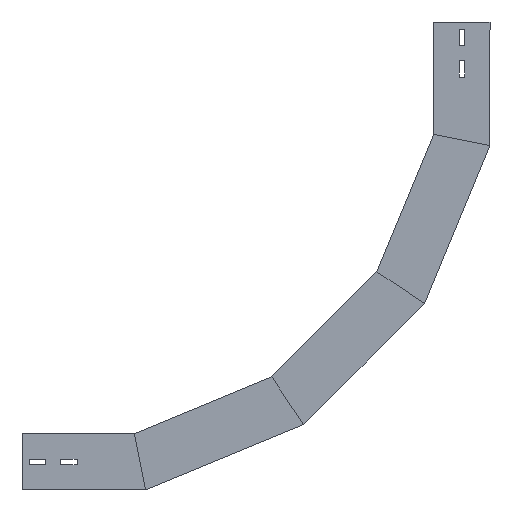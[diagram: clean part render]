
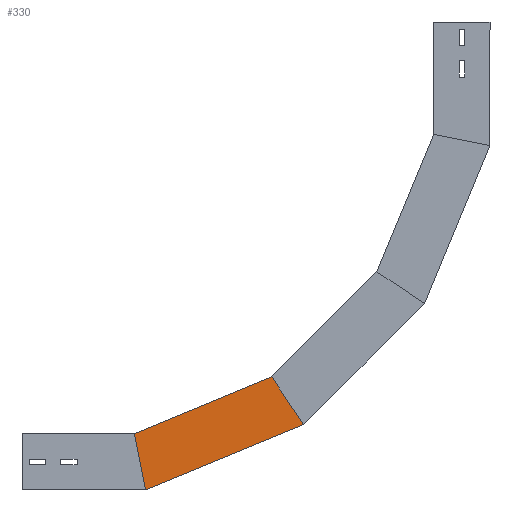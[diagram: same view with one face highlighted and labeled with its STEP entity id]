
A CAD part, left-side view. The second image highlights one B-rep face of the part: STEP entity #330.
In plain terms, the highlighted planar face has unit normal (-1, 0, 0) as drawn and (1, 0, 0) by its records, which use the part's own axes.
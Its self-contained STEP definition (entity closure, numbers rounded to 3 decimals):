
#110 = EDGE_LOOP ( 'NONE', ( #1356, #235, #521, #769 ) ) ;
#117 = LINE ( 'NONE', #1556, #1036 ) ;
#189 = LINE ( 'NONE', #487, #1323 ) ;
#235 = ORIENTED_EDGE ( 'NONE', *, *, #1020, .T. ) ;
#318 = VERTEX_POINT ( 'NONE', #982 ) ;
#330 = ADVANCED_FACE ( 'NONE', ( #1098 ), #1128, .F. ) ;
#339 = CARTESIAN_POINT ( 'NONE',  ( 0., 75., -149.682 ) ) ;
#385 = CARTESIAN_POINT ( 'NONE',  ( 0., 0., -164.6 ) ) ;
#399 = VECTOR ( 'NONE', #529, 1000. ) ;
#487 = CARTESIAN_POINT ( 'NONE',  ( 0., 69.291, -135.899 ) ) ;
#521 = ORIENTED_EDGE ( 'NONE', *, *, #1892, .T. ) ;
#529 = DIRECTION ( 'NONE',  ( 0., 0.383, -0.924 ) ) ;
#588 = CARTESIAN_POINT ( 'NONE',  ( 0., 87.328, -375.429 ) ) ;
#601 = AXIS2_PLACEMENT_3D ( 'NONE', #385, #1427, #695 ) ;
#674 = LINE ( 'NONE', #1262, #399 ) ;
#695 = DIRECTION ( 'NONE',  ( 0., 0., 1. ) ) ;
#768 = DIRECTION ( 'NONE',  ( 0., 0.383, -0.924 ) ) ;
#769 = ORIENTED_EDGE ( 'NONE', *, *, #1491, .F. ) ;
#793 = LINE ( 'NONE', #1396, #1533 ) ;
#975 = DIRECTION ( 'NONE',  ( 0., -0.831, -0.556 ) ) ;
#982 = CARTESIAN_POINT ( 'NONE',  ( 0., 0., -164.6 ) ) ;
#1020 = EDGE_CURVE ( 'NONE', #1406, #318, #793, .T. ) ;
#1036 = VECTOR ( 'NONE', #975, 1000. ) ;
#1098 = FACE_OUTER_BOUND ( 'NONE', #110, .T. ) ;
#1128 = PLANE ( 'NONE',  #601 ) ;
#1262 = CARTESIAN_POINT ( 'NONE',  ( 0., 0., -164.6 ) ) ;
#1285 = DIRECTION ( 'NONE',  ( 0., -0.981, -0.195 ) ) ;
#1323 = VECTOR ( 'NONE', #768, 1000. ) ;
#1348 = CARTESIAN_POINT ( 'NONE',  ( 0., 150.91, -332.945 ) ) ;
#1356 = ORIENTED_EDGE ( 'NONE', *, *, #1794, .F. ) ;
#1396 = CARTESIAN_POINT ( 'NONE',  ( 0., 31.495, -158.335 ) ) ;
#1406 = VERTEX_POINT ( 'NONE', #339 ) ;
#1427 = DIRECTION ( 'NONE',  ( -1., 0., 0. ) ) ;
#1491 = EDGE_CURVE ( 'NONE', #1735, #1708, #117, .T. ) ;
#1533 = VECTOR ( 'NONE', #1285, 1000. ) ;
#1556 = CARTESIAN_POINT ( 'NONE',  ( 0., 124.345, -350.696 ) ) ;
#1708 = VERTEX_POINT ( 'NONE', #588 ) ;
#1735 = VERTEX_POINT ( 'NONE', #1348 ) ;
#1794 = EDGE_CURVE ( 'NONE', #1406, #1735, #189, .T. ) ;
#1892 = EDGE_CURVE ( 'NONE', #318, #1708, #674, .T. ) ;
